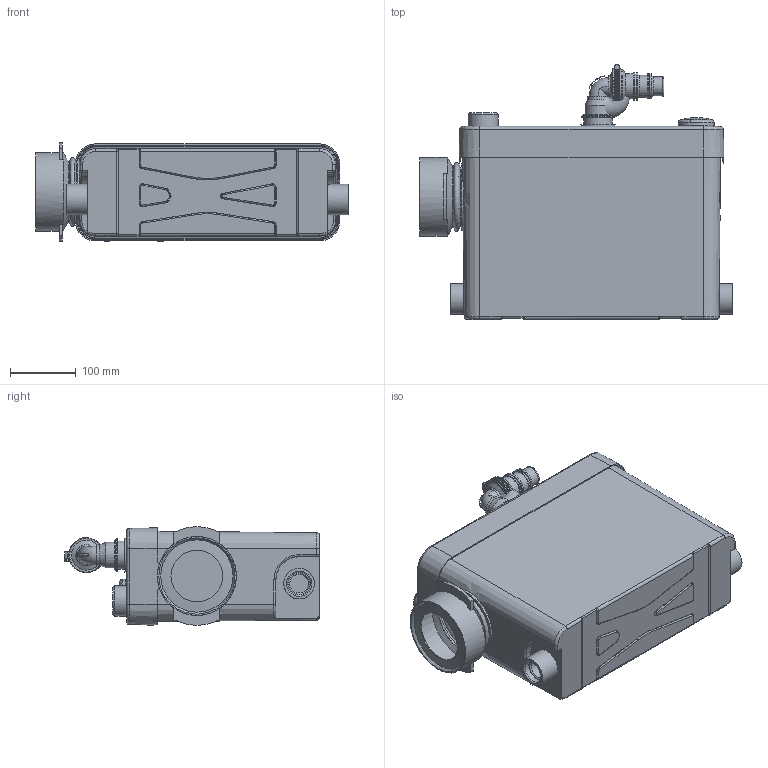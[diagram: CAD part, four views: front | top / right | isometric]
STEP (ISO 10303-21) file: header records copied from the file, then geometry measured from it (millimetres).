
FILE_DESCRIPTION (( 'STEP AP214' ), '1' );
FILE_NAME ('SANIPACK 2 USA v2.STEP', '2018-11-05T13:35:31', ( 'VHUMBERT' ), ( '' ), 'SwSTEP 2.0', 'SolidWorks 2018', '' );
FILE_SCHEMA (( 'AUTOMOTIVE_DESIGN' ));
Length unit declared in the file: millimetre
Products named in the file (1): SANIPACK 2 USA v2
Bounding box: 475.9 x 387.95 x 150 mm (x, y, z)
Volume: 1511024.6 mm3; surface area: 1012628.4 mm2
Topology: 2 solids, 4 shells, 683 faces, 1621 edges, 1017 vertices
Faces by surface type: plane 289, cylinder 207, torus 72, bspline 58, cone 57
Full cylindrical faces by diameter (mm): 23 x1, 27 x2, 27.3 x1, 28.5 x2, 29 x1, 32 x3, 34 x2, 34.5 x2, 38 x4, 39 x1, 40 x1, 40.5 x1, 42 x2, 43 x1, 44 x1, 45 x1, 45.5 x1, 46 x2, 46.5 x4, 50 x1, 51 x1, 51.5 x2, 52 x1, 52.2 x1, 55 x1, 79 x1, 79.039 x1, 89 x1, 101 x1, 110 x1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
Entity records: 29141 total; most frequent: CARTESIAN_POINT 6649, DIRECTION 3176, ORIENTED_EDGE 2998, EDGE_CURVE 1499, AXIS2_PLACEMENT_3D 1230, VERTEX_POINT 988, EDGE_LOOP 851, FACE_OUTER_BOUND 745
